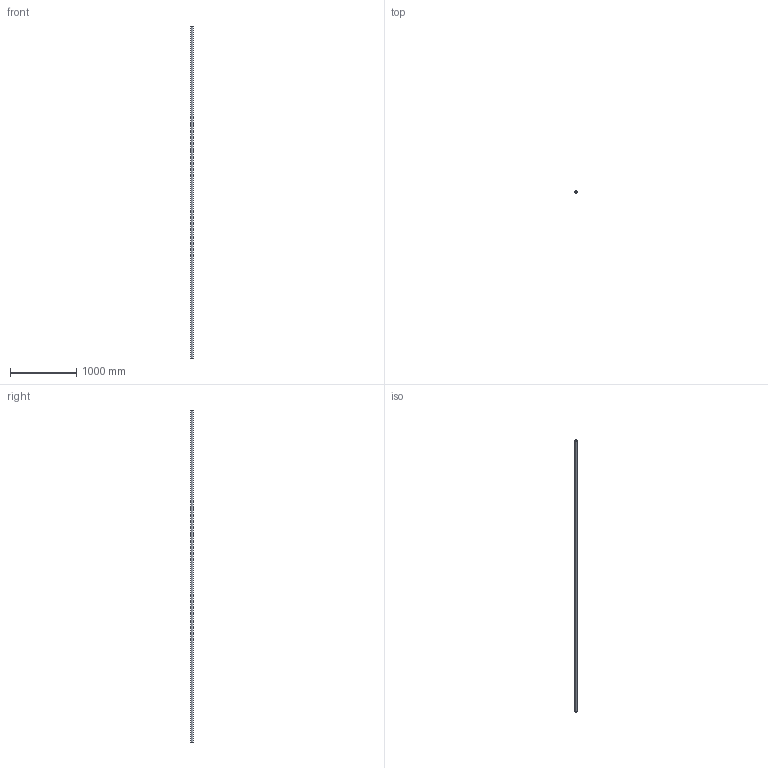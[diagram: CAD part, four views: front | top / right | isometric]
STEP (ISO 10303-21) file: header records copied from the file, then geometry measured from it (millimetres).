
FILE_DESCRIPTION(/* description */ (''),/* implementation_level */ '2;1');
FILE_NAME(/* name */ 'C:\Geberit-Teile\Export 2019\379.000.16.0\stp\379000.stp',/* time_stamp */ '2019-06-06T10:47:53+02:00',/* author */ ('JANAN'),/* organization */ (''),/* preprocessor_version */ 'ST-DEVELOPER v16.13',/* originating_system */ 'Autodesk Inventor 2018',/* authorisation */ '');
FILE_SCHEMA (('AUTOMOTIVE_DESIGN { 1 0 10303 214 3 1 1 }'));
Length unit declared in the file: millimetre
Products named in the file (1): Rohr PE-HD d32x3 L5000
Bounding box: 32 x 32 x 5000 mm (x, y, z)
Volume: 1366592.8 mm3; surface area: 911608.5 mm2
Topology: 1 solids, 1 shells, 4 faces, 6 edges, 4 vertices
Faces by surface type: cylinder 2, plane 2
Full cylindrical faces by diameter (mm): 26 x1, 32 x1
Entity records: 131 total; most frequent: DIRECTION 18, CARTESIAN_POINT 13, AXIS2_PLACEMENT_3D 9, EDGE_LOOP 8, ORIENTED_EDGE 8, STYLED_ITEM 5, FACE_BOUND 4, FACE_OUTER_BOUND 4
